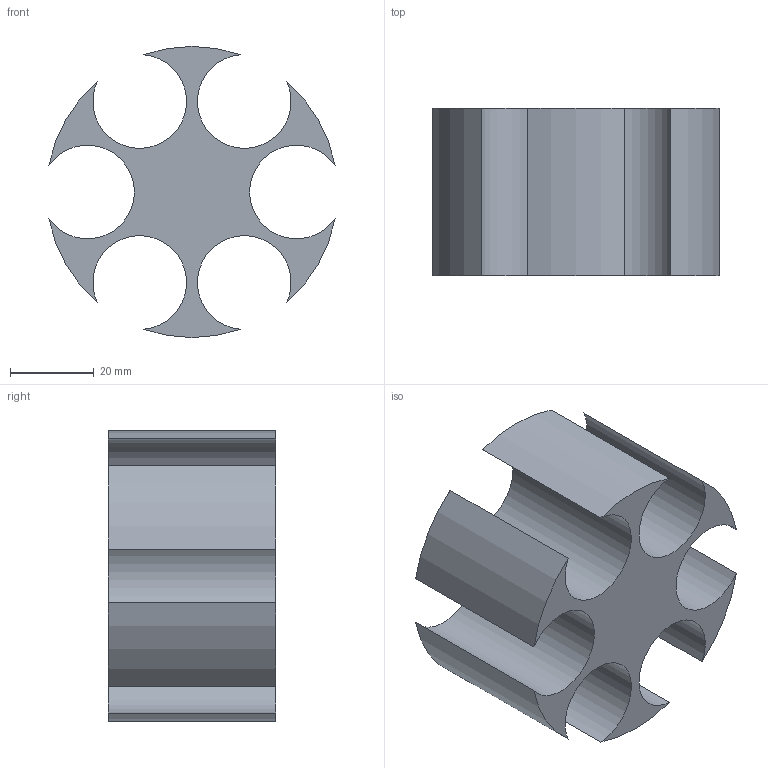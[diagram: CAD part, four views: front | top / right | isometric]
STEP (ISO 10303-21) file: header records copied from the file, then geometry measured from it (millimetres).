
FILE_DESCRIPTION(('Open CASCADE Model'),'2;1');
FILE_NAME('Open CASCADE Shape Model','2026-09-10T23:36:49',('Author'),( 'Open CASCADE'),'Open CASCADE STEP processor 7.9','Open CASCADE 7.9' ,'Unknown');
FILE_SCHEMA(('AUTOMOTIVE_DESIGN { 1 0 10303 214 1 1 1 1 }'));
Length unit declared in the file: millimetre
Products named in the file (1): Open CASCADE STEP translator 7.9 4
Bounding box: 68.42 x 40 x 69.6 mm (x, y, z)
Volume: 60533.9 mm3; surface area: 22334.6 mm2
Topology: 1 solids, 1 shells, 14 faces, 36 edges, 24 vertices
Faces by surface type: cylinder 12, plane 2
Entity records: 955 total; most frequent: CARTESIAN_POINT 213, DIRECTION 151, ORIENTED_EDGE 72, PCURVE 72, DEFINITIONAL_REPRESENTATION 72, LINE 60, VECTOR 60, AXIS2_PLACEMENT_3D 39
